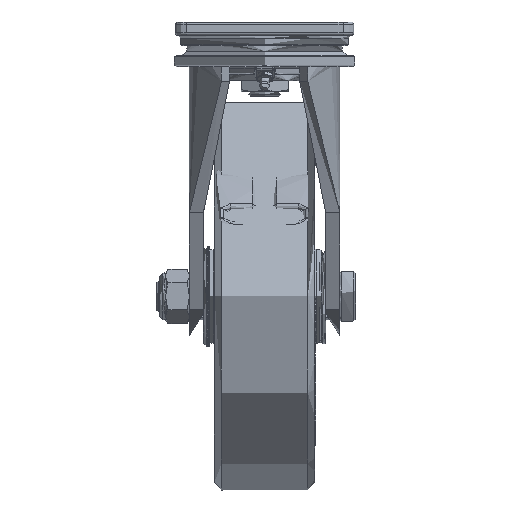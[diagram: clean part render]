
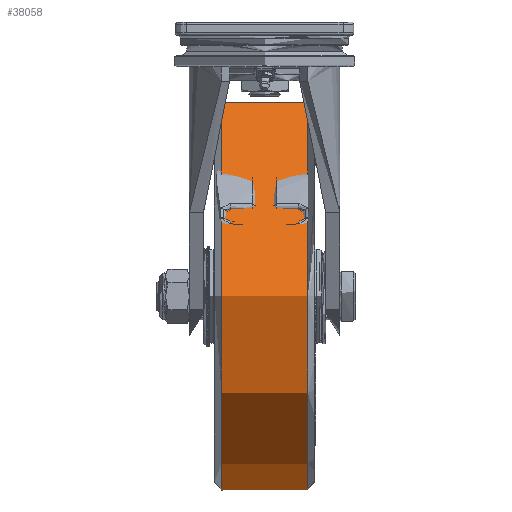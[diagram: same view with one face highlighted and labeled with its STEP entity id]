
A CAD part, left-side view. The second image highlights one B-rep face of the part: STEP entity #38058.
In plain terms, the highlighted free-form (B-spline) face has degree [2, 2] with [3, 9] control points.
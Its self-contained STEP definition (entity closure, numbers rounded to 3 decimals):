
#2440=(
BOUNDED_CURVE()
B_SPLINE_CURVE(2,(#55634,#55635,#55636),.UNSPECIFIED.,.F.,.F.)
B_SPLINE_CURVE_WITH_KNOTS((3,3),(-0.11,0.11),
 .UNSPECIFIED.)
CURVE()
GEOMETRIC_REPRESENTATION_ITEM()
RATIONAL_B_SPLINE_CURVE((1.,0.994,1.))
REPRESENTATION_ITEM('')
);
#2518=(
BOUNDED_SURFACE()
B_SPLINE_SURFACE(2,2,((#55603,#55604,#55605,#55606,#55607,#55608,#55609,
#55610,#55611),(#55612,#55613,#55614,#55615,#55616,#55617,#55618,#55619,
#55620),(#55621,#55622,#55623,#55624,#55625,#55626,#55627,#55628,#55629)),
 .UNSPECIFIED.,.F.,.T.,.F.)
B_SPLINE_SURFACE_WITH_KNOTS((3,3),(3,2,2,2,3),(-0.11,0.11),
(-3.142,-1.571,0.,1.571,3.142),
 .UNSPECIFIED.)
GEOMETRIC_REPRESENTATION_ITEM()
RATIONAL_B_SPLINE_SURFACE(((1.,0.707,1.,0.707,1.,
0.707,1.,0.707,1.),(0.994,0.703,
0.994,0.703,0.994,0.703,
0.994,0.703,0.994),(1.,0.707,
1.,0.707,1.,0.707,1.,0.707,1.)))
REPRESENTATION_ITEM('')
SURFACE()
);
#2527=CIRCLE('',#40096,12.348);
#2528=CIRCLE('',#40097,12.348);
#2530=CIRCLE('',#40099,12.348);
#2531=CIRCLE('',#40100,12.348);
#6455=FACE_OUTER_BOUND('',#8689,.T.);
#8689=EDGE_LOOP('',(#27611,#27612,#27613,#27614,#27615,#27616));
#17278=VERTEX_POINT('',#55597);
#17279=VERTEX_POINT('',#55598);
#17281=VERTEX_POINT('',#55630);
#17282=VERTEX_POINT('',#55631);
#21181=EDGE_CURVE('',#17278,#17279,#2527,.T.);
#21182=EDGE_CURVE('',#17279,#17278,#2528,.T.);
#21184=EDGE_CURVE('',#17281,#17282,#2530,.T.);
#21185=EDGE_CURVE('',#17282,#17281,#2531,.T.);
#21186=EDGE_CURVE('',#17282,#17279,#2440,.T.);
#27611=ORIENTED_EDGE('',*,*,#21184,.F.);
#27612=ORIENTED_EDGE('',*,*,#21185,.F.);
#27613=ORIENTED_EDGE('',*,*,#21186,.T.);
#27614=ORIENTED_EDGE('',*,*,#21182,.T.);
#27615=ORIENTED_EDGE('',*,*,#21181,.T.);
#27616=ORIENTED_EDGE('',*,*,#21186,.F.);
#38058=ADVANCED_FACE('',(#6455),#2518,.F.);
#40096=AXIS2_PLACEMENT_3D('',#55599,#44030,#44031);
#40097=AXIS2_PLACEMENT_3D('',#55600,#44032,#44033);
#40099=AXIS2_PLACEMENT_3D('',#55632,#44036,#44037);
#40100=AXIS2_PLACEMENT_3D('',#55633,#44038,#44039);
#44030=DIRECTION('center_axis',(0.,-1.,0.));
#44031=DIRECTION('ref_axis',(0.,0.,
1.));
#44032=DIRECTION('center_axis',(0.,-1.,0.));
#44033=DIRECTION('ref_axis',(0.,0.,
1.));
#44036=DIRECTION('center_axis',(0.,-1.,0.));
#44037=DIRECTION('ref_axis',(0.,0.,
1.));
#44038=DIRECTION('center_axis',(0.,-1.,0.));
#44039=DIRECTION('ref_axis',(0.,0.,
1.));
#55597=CARTESIAN_POINT('',(-6.268,2.755,-15.125));
#55598=CARTESIAN_POINT('',(6.08,2.755,-27.473));
#55599=CARTESIAN_POINT('Origin',(6.08,2.755,-15.125));
#55600=CARTESIAN_POINT('Origin',(6.08,2.755,-15.125));
#55603=CARTESIAN_POINT('Ctrl Pts',(6.08,2.755,-27.473));
#55604=CARTESIAN_POINT('Ctrl Pts',(18.427,2.755,-27.473));
#55605=CARTESIAN_POINT('Ctrl Pts',(18.427,2.755,-15.125));
#55606=CARTESIAN_POINT('Ctrl Pts',(18.427,2.755,-2.777));
#55607=CARTESIAN_POINT('Ctrl Pts',(6.08,2.755,-2.777));
#55608=CARTESIAN_POINT('Ctrl Pts',(-6.268,2.755,-2.777));
#55609=CARTESIAN_POINT('Ctrl Pts',(-6.268,2.755,-15.125));
#55610=CARTESIAN_POINT('Ctrl Pts',(-6.268,2.755,-27.473));
#55611=CARTESIAN_POINT('Ctrl Pts',(6.08,2.755,-27.473));
#55612=CARTESIAN_POINT('Ctrl Pts',(6.08,0.,
-27.778));
#55613=CARTESIAN_POINT('Ctrl Pts',(18.733,0.,
-27.778));
#55614=CARTESIAN_POINT('Ctrl Pts',(18.733,0.,
-15.125));
#55615=CARTESIAN_POINT('Ctrl Pts',(18.733,0.,
-2.472));
#55616=CARTESIAN_POINT('Ctrl Pts',(6.08,0.,
-2.472));
#55617=CARTESIAN_POINT('Ctrl Pts',(-6.574,0.,
-2.472));
#55618=CARTESIAN_POINT('Ctrl Pts',(-6.574,0.,
-15.125));
#55619=CARTESIAN_POINT('Ctrl Pts',(-6.574,0.,
-27.778));
#55620=CARTESIAN_POINT('Ctrl Pts',(6.08,0.,
-27.778));
#55621=CARTESIAN_POINT('Ctrl Pts',(6.08,-2.755,-27.473));
#55622=CARTESIAN_POINT('Ctrl Pts',(18.427,-2.755,-27.473));
#55623=CARTESIAN_POINT('Ctrl Pts',(18.427,-2.755,-15.125));
#55624=CARTESIAN_POINT('Ctrl Pts',(18.427,-2.755,-2.777));
#55625=CARTESIAN_POINT('Ctrl Pts',(6.08,-2.755,-2.777));
#55626=CARTESIAN_POINT('Ctrl Pts',(-6.268,-2.755,
-2.777));
#55627=CARTESIAN_POINT('Ctrl Pts',(-6.268,-2.755,
-15.125));
#55628=CARTESIAN_POINT('Ctrl Pts',(-6.268,-2.755,
-27.473));
#55629=CARTESIAN_POINT('Ctrl Pts',(6.08,-2.755,-27.473));
#55630=CARTESIAN_POINT('',(-6.268,-2.755,-15.125));
#55631=CARTESIAN_POINT('',(6.08,-2.755,-27.473));
#55632=CARTESIAN_POINT('Origin',(6.08,-2.755,-15.125));
#55633=CARTESIAN_POINT('Origin',(6.08,-2.755,-15.125));
#55634=CARTESIAN_POINT('Ctrl Pts',(6.08,-2.755,-27.473));
#55635=CARTESIAN_POINT('Ctrl Pts',(6.08,0.,
-27.778));
#55636=CARTESIAN_POINT('Ctrl Pts',(6.08,2.755,-27.473));
